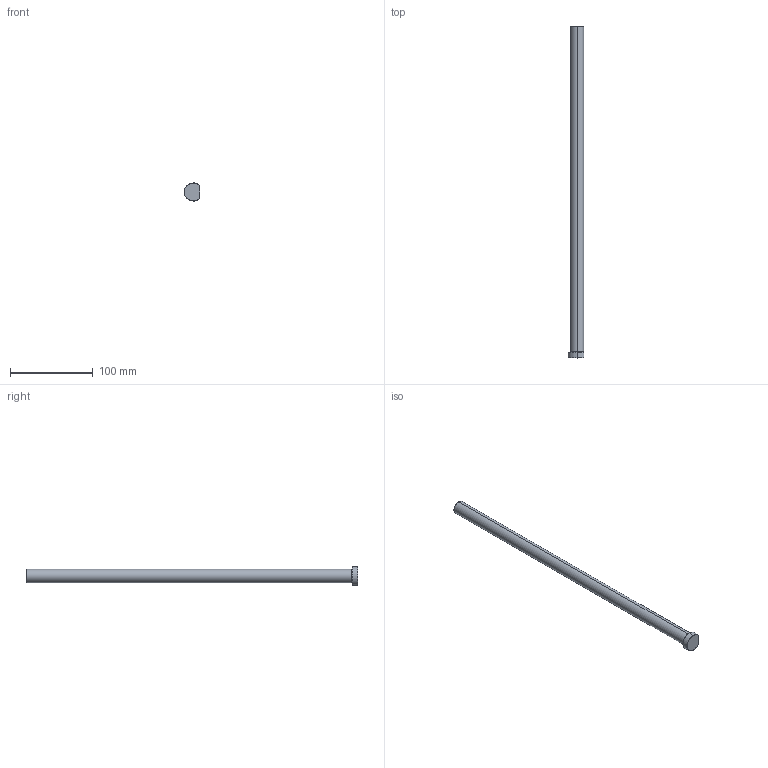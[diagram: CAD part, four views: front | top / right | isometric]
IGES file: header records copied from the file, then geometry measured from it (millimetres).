
Start section: SolidWorks IGES file using analytic representation for surfaces
Global section: file name: C:\Users\365admin\AppData\Local\Temp\InFlowConvert3DWorking\EPD16L400-K.igs; native system: SolidWorks 2019; preprocessor: SolidWorks 2019; author: 365admin; date: 220408.083552; units: millimetre
Bounding box: 19 x 400 x 22 mm (x, y, z)
Surface area: 20906.8 mm2 (no closed solid volume)
Topology: 0 solids, 0 shells, 18 faces, 211 edges, 211 vertices
Faces by surface type: revolution 11, bspline 7
